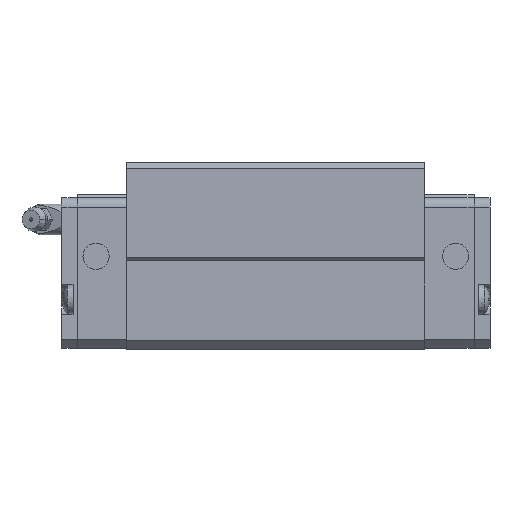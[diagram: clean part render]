
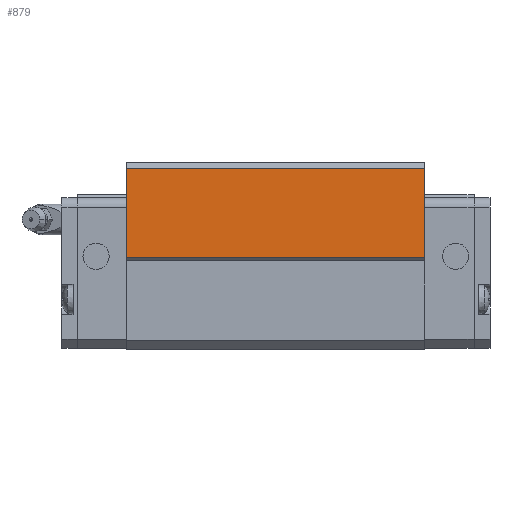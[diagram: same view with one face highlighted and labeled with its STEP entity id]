
A CAD part, front view. The second image highlights one B-rep face of the part: STEP entity #879.
In plain terms, the highlighted planar face has unit normal (0, -1, 0).
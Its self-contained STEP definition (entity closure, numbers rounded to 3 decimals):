
#818=CARTESIAN_POINT('POINT50',(118.2,-43.,
   29.5));
#819=VERTEX_POINT('VERTEX50',#818);
#826=CARTESIAN_POINT('POINT51',(21.2,-43.,
   29.5));
#827=VERTEX_POINT('VERTEX51',#826);
#828=CARTESIAN_POINT('POS85',(21.2,-43.,
   29.5));
#829=DIRECTION('DIR126',(1.,0.,0.));
#830=VECTOR('VEC44',#829,1.);
#831=LINE('STRAIGHT44',#828,#830);
#832=EDGE_CURVE('EDGE82',#827,#819,#831,.T.);
#849=CARTESIAN_POINT('POINT52',(118.2,-43.,
   58.5));
#850=VERTEX_POINT('VERTEX52',#849);
#851=CARTESIAN_POINT('POS88',(118.2,-43.,
   58.5));
#852=DIRECTION('DIR130',(0.,0.,1.));
#853=VECTOR('VEC46',#852,1.);
#854=LINE('STRAIGHT46',#851,#853);
#855=EDGE_CURVE('EDGE84',#819,#850,#854,.T.);
#856=ORIENTED_EDGE('COEDGE151',*,*,#855,.T.);
#857=CARTESIAN_POINT('POINT53',(21.2,-43.,
   58.5));
#858=VERTEX_POINT('VERTEX53',#857);
#859=CARTESIAN_POINT('POS89',(21.2,-43.,
   58.5));
#860=DIRECTION('DIR131',(1.,0.,0.));
#861=VECTOR('VEC47',#860,1.);
#862=LINE('STRAIGHT47',#859,#861);
#863=EDGE_CURVE('EDGE85',#858,#850,#862,.T.);
#864=ORIENTED_EDGE('COEDGE152',*,*,#863,.F.);
#865=CARTESIAN_POINT('POS90',(21.2,-43.,
   58.5));
#866=DIRECTION('DIR132',(0.,0.,-1.));
#867=VECTOR('VEC48',#866,1.);
#868=LINE('STRAIGHT48',#865,#867);
#869=EDGE_CURVE('EDGE86',#858,#827,#868,.T.);
#870=ORIENTED_EDGE('COEDGE153',*,*,#869,.T.);
#871=ORIENTED_EDGE('COEDGE154',*,*,#832,.T.);
#872=EDGE_LOOP('NONE',(#856,#864,#870,#871));
#873=FACE_BOUND('LOOP1',#872,.T.);
#874=CARTESIAN_POINT('POS91',(21.2,-43.,
   29.5));
#875=DIRECTION('DIR133',(0.,-1.,0.));
#876=DIRECTION('DIR134',(1.,0.,0.));
#877=AXIS2_PLACEMENT_3D('AXIS43',#874,#875,#876);
#878=PLANE('PLANE8',#877);
#879=ADVANCED_FACE('FACE40',(#873),#878,.T.);
